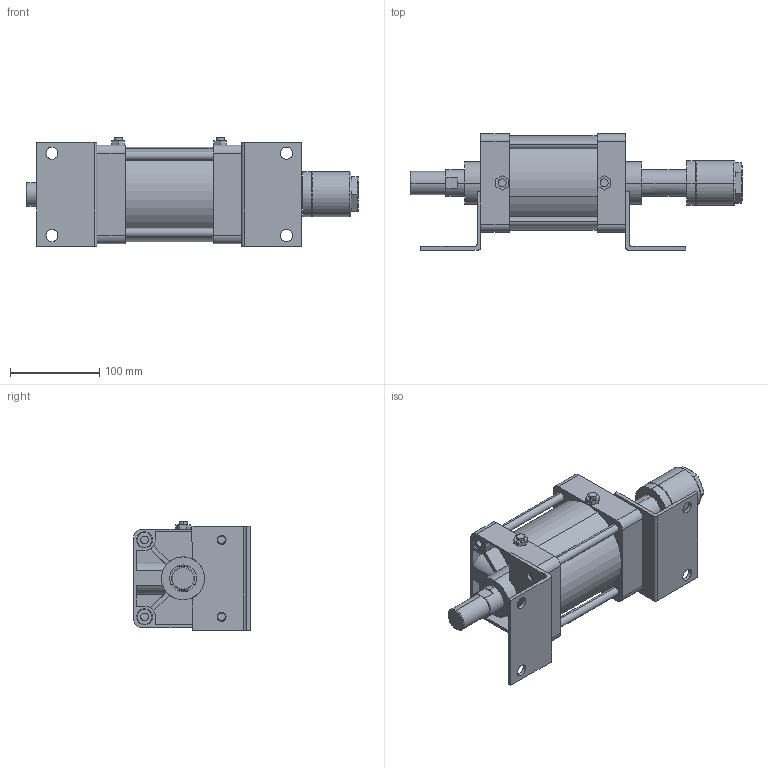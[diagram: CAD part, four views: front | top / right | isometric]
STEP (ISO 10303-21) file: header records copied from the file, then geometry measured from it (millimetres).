
FILE_DESCRIPTION (( 'STEP AP203' ), '1' );
FILE_NAME ('KGA7-100#-50-L.STEP', '2016-04-14T07:55:26', ( '' ), ( '' ), 'SwSTEP 2.0', 'SolidWorks 2014', '' );
FILE_SCHEMA (( 'CONFIG_CONTROL_DESIGN' ));
Length unit declared in the file: millimetre
Products named in the file (9): KGA7-100#-50-L; K#7-100-50-After; K-100-L; KGLH2-100-50; KGA7-100-Turn
Assembly tree (19 placements, depth 2):
  KGA7-100#-50-L
    K#7-100-50-After
    KGLH2-100-50
    (unnamed)
    (unnamed)  x4
    (unnamed)  x8
    K-100-L  x2
    KGA7-100-Turn
    (unnamed)
Bounding box: 371 x 130 x 121.3 mm (x, y, z)
Volume: 1776903.1 mm3; surface area: 297860.4 mm2
Topology: 19 solids, 19 shells, 396 faces, 935 edges, 598 vertices
Faces by surface type: plane 169, cylinder 153, torus 46, cone 28
Entity records: 9949 total; most frequent: CARTESIAN_POINT 1763, DIRECTION 1537, ORIENTED_EDGE 1382, EDGE_CURVE 691, AXIS2_PLACEMENT_3D 584, VERTEX_POINT 452, VECTOR 369, LINE 369
